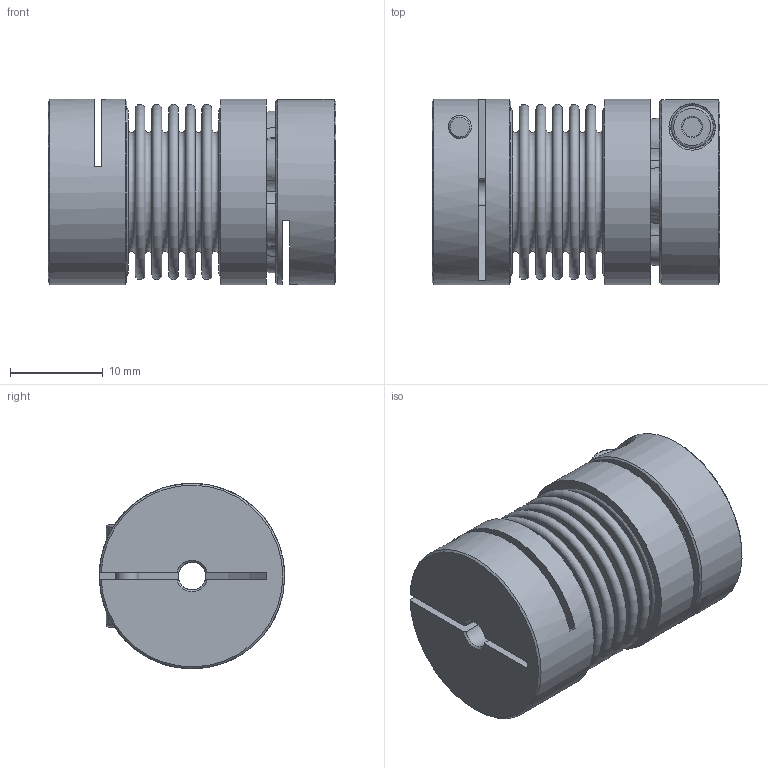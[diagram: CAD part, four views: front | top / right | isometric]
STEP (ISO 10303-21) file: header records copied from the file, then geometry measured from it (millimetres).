
FILE_DESCRIPTION( ( 'KBE1/14 - N7H8 - N14H7 - 98 Sh' ), '1' );
FILE_NAME( 'K:/Konstruktion/Fertigungszeichnungen/Metallbalgkupplung/KB2P/15/KB2P-15-30.stp', '14.12.2015', ( 'KBK-Antriebstechnik' ), ( 'KBK-Antriebstechnik' ), 'PSStep 16.0.42', 'Solid Edge St6', ' ' );
FILE_SCHEMA( ( 'AUTOMOTIVE_DESIGN { 1 0 10303 214 1 1 1 1 }' ) );
Length unit declared in the file: millimetre
Products named in the file (6): Assem1; Stecknabe KB2P-15; KN15_Standard_2; ISO EN DIN 4762 M2,5x8; BK15_Standard_0; Balgaufnahme KB2P-15 für Step
Assembly tree (6 placements, depth 2):
  Assem1
    Stecknabe KB2P-15
    KN15_Standard_2
    ISO EN DIN 4762 M2,5x8  x2
    BK15_Standard_0
    Balgaufnahme KB2P-15 für Step
Bounding box: 31.05 x 20 x 20 mm (x, y, z)
Volume: 6240.7 mm3; surface area: 9238.3 mm2
Topology: 6 solids, 6 shells, 189 faces, 398 edges, 254 vertices
Faces by surface type: plane 71, cone 59, torus 31, cylinder 27, bspline 1
Full cylindrical faces by diameter (mm): 2.013 x1, 2.1 x2, 2.5 x5, 2.8 x2, 3 x2, 4.5 x2, 5 x1, 18 x2, 18.3 x2, 20 x3
Entity records: 6202 total; most frequent: CARTESIAN_POINT 1256, DIRECTION 805, ORIENTED_EDGE 594, AXIS2_PLACEMENT_3D 367, EDGE_CURVE 297, EDGE_LOOP 259, VERTEX_POINT 232, FACE_OUTER_BOUND 210
